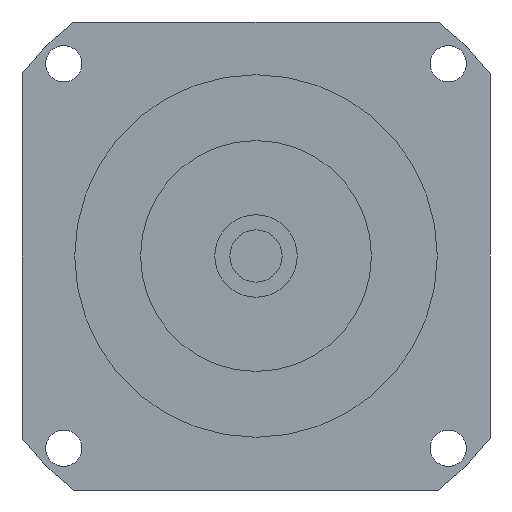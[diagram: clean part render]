
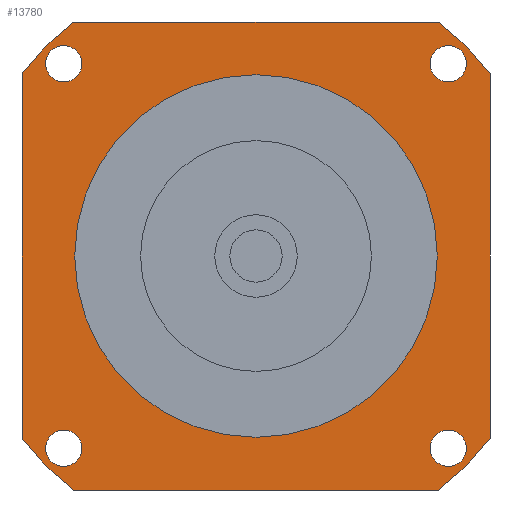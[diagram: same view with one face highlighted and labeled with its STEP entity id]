
A CAD part, left-side view. The second image highlights one B-rep face of the part: STEP entity #13780.
In plain terms, the highlighted planar face has unit normal (-1, 0, 0) as drawn and (0, 0, -1) by its records, which use the part's own axes.
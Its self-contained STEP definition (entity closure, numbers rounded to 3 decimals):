
#10130=CARTESIAN_POINT('',(71.,55.308,-59.7));
#10140=VERTEX_POINT('',#10130);
#10190=CARTESIAN_POINT('',(71.,71.,-59.7));
#10200=DIRECTION('',(0.,-1.,0.));
#10210=VECTOR('',#10200,1000.);
#10220=LINE('',#10190,#10210);
#10230=CARTESIAN_POINT('',(71.,-55.308,-59.7));
#10240=VERTEX_POINT('',#10230);
#10250=EDGE_CURVE('',#10140,#10240,#10220,.T.);
#10500=CARTESIAN_POINT('',(0.,0.,
-59.7));
#10510=DIRECTION('',(0.,0.,-1.));
#10520=DIRECTION('',(1.,0.,0.));
#10530=AXIS2_PLACEMENT_3D('',#10500,#10510,#10520);
#10540=CIRCLE('',#10530,90.);
#10550=CARTESIAN_POINT('',(55.308,-71.,-59.7));
#10560=VERTEX_POINT('',#10550);
#10570=EDGE_CURVE('',#10240,#10560,#10540,.T.);
#12280=CARTESIAN_POINT('',(52.836,-58.336,-59.7));
#12290=VERTEX_POINT('',#12280);
#12320=CARTESIAN_POINT('',(58.336,-58.336,-59.7));
#12330=DIRECTION('',(0.,0.,-1.));
#12340=DIRECTION('',(1.,0.,0.));
#12350=AXIS2_PLACEMENT_3D('',#12320,#12330,#12340);
#12360=CIRCLE('',#12350,5.5);
#12370=CARTESIAN_POINT('',(63.836,-58.336,-59.7));
#12380=VERTEX_POINT('',#12370);
#12390=EDGE_CURVE('',#12380,#12290,#12360,.T.);
#12510=CARTESIAN_POINT('',(71.,71.,-59.7));
#12520=DIRECTION('',(0.,0.,-1.));
#12530=DIRECTION('',(1.,0.,0.));
#12540=AXIS2_PLACEMENT_3D('',#12510,#12520,#12530);
#12550=PLANE('',#12540);
#12560=CARTESIAN_POINT('',(-58.336,-58.336,-59.7));
#12570=DIRECTION('',(0.,0.,-1.));
#12580=DIRECTION('',(0.,-1.,0.));
#12590=AXIS2_PLACEMENT_3D('',#12560,#12570,#12580);
#12600=CIRCLE('',#12590,5.5);
#12610=CARTESIAN_POINT('',(-58.336,-63.836,-59.7));
#12620=VERTEX_POINT('',#12610);
#12630=CARTESIAN_POINT('',(-58.336,-52.836,-59.7));
#12640=VERTEX_POINT('',#12630);
#12650=EDGE_CURVE('',#12620,#12640,#12600,.T.);
#12660=ORIENTED_EDGE('',*,*,#12650,.F.);
#12670=EDGE_CURVE('',#12640,#12620,#12600,.T.);
#12680=ORIENTED_EDGE('',*,*,#12670,.F.);
#12690=EDGE_LOOP('',(#12680,#12660));
#12700=FACE_BOUND('',#12690,.T.);
#12710=CARTESIAN_POINT('',(-58.336,58.336,-59.7));
#12720=DIRECTION('',(0.,0.,-1.));
#12730=DIRECTION('',(-1.,0.,0.));
#12740=AXIS2_PLACEMENT_3D('',#12710,#12720,#12730);
#12750=CIRCLE('',#12740,5.5);
#12760=CARTESIAN_POINT('',(-63.836,58.336,-59.7));
#12770=VERTEX_POINT('',#12760);
#12780=CARTESIAN_POINT('',(-52.836,58.336,-59.7));
#12790=VERTEX_POINT('',#12780);
#12800=EDGE_CURVE('',#12770,#12790,#12750,.T.);
#12810=ORIENTED_EDGE('',*,*,#12800,.F.);
#12820=EDGE_CURVE('',#12790,#12770,#12750,.T.);
#12830=ORIENTED_EDGE('',*,*,#12820,.F.);
#12840=EDGE_LOOP('',(#12830,#12810));
#12850=FACE_BOUND('',#12840,.T.);
#12860=CARTESIAN_POINT('',(58.336,58.336,-59.7));
#12870=DIRECTION('',(0.,0.,-1.));
#12880=DIRECTION('',(0.,1.,0.));
#12890=AXIS2_PLACEMENT_3D('',#12860,#12870,#12880);
#12900=CIRCLE('',#12890,5.5);
#12910=CARTESIAN_POINT('',(58.336,63.836,-59.7));
#12920=VERTEX_POINT('',#12910);
#12930=CARTESIAN_POINT('',(58.336,52.836,-59.7));
#12940=VERTEX_POINT('',#12930);
#12950=EDGE_CURVE('',#12920,#12940,#12900,.T.);
#12960=ORIENTED_EDGE('',*,*,#12950,.F.);
#12970=EDGE_CURVE('',#12940,#12920,#12900,.T.);
#12980=ORIENTED_EDGE('',*,*,#12970,.F.);
#12990=EDGE_LOOP('',(#12980,#12960));
#13000=FACE_BOUND('',#12990,.T.);
#13010=CARTESIAN_POINT('',(0.,0.,
-59.7));
#13020=DIRECTION('',(0.,0.,1.));
#13030=DIRECTION('',(0.,1.,0.));
#13040=AXIS2_PLACEMENT_3D('',#13010,#13020,#13030);
#13050=CIRCLE('',#13040,55.);
#13060=CARTESIAN_POINT('',(-55.,0.,-59.7));
#13070=VERTEX_POINT('',#13060);
#13080=CARTESIAN_POINT('',(55.,0.,-59.7));
#13090=VERTEX_POINT('',#13080);
#13100=EDGE_CURVE('',#13070,#13090,#13050,.T.);
#13110=ORIENTED_EDGE('',*,*,#13100,.T.);
#13120=CARTESIAN_POINT('',(0.,55.,-59.7));
#13130=VERTEX_POINT('',#13120);
#13140=EDGE_CURVE('',#13130,#13070,#13050,.T.);
#13150=ORIENTED_EDGE('',*,*,#13140,.T.);
#13160=EDGE_CURVE('',#13090,#13130,#13050,.T.);
#13170=ORIENTED_EDGE('',*,*,#13160,.T.);
#13180=EDGE_LOOP('',(#13170,#13150,#13110));
#13190=FACE_BOUND('',#13180,.T.);
#13200=CARTESIAN_POINT('',(-71.,71.,-59.7));
#13210=DIRECTION('',(1.,0.,0.));
#13220=VECTOR('',#13210,1000.);
#13230=LINE('',#13200,#13220);
#13240=CARTESIAN_POINT('',(-55.308,71.,-59.7));
#13250=VERTEX_POINT('',#13240);
#13260=CARTESIAN_POINT('',(55.308,71.,-59.7));
#13270=VERTEX_POINT('',#13260);
#13280=EDGE_CURVE('',#13250,#13270,#13230,.T.);
#13290=ORIENTED_EDGE('',*,*,#13280,.T.);
#13300=CARTESIAN_POINT('',(0.,0.,
-59.7));
#13310=DIRECTION('',(0.,0.,-1.));
#13320=DIRECTION('',(1.,0.,0.));
#13330=AXIS2_PLACEMENT_3D('',#13300,#13310,#13320);
#13340=CIRCLE('',#13330,90.);
#13350=CARTESIAN_POINT('',(-71.,55.308,-59.7));
#13360=VERTEX_POINT('',#13350);
#13370=EDGE_CURVE('',#13360,#13250,#13340,.T.);
#13380=ORIENTED_EDGE('',*,*,#13370,.T.);
#13390=CARTESIAN_POINT('',(-71.,-71.,-59.7));
#13400=DIRECTION('',(0.,1.,0.));
#13410=VECTOR('',#13400,1000.);
#13420=LINE('',#13390,#13410);
#13430=CARTESIAN_POINT('',(-71.,-55.308,-59.7));
#13440=VERTEX_POINT('',#13430);
#13450=EDGE_CURVE('',#13440,#13360,#13420,.T.);
#13460=ORIENTED_EDGE('',*,*,#13450,.T.);
#13470=CARTESIAN_POINT('',(0.,0.,
-59.7));
#13480=DIRECTION('',(0.,0.,-1.));
#13490=DIRECTION('',(1.,0.,0.));
#13500=AXIS2_PLACEMENT_3D('',#13470,#13480,#13490);
#13510=CIRCLE('',#13500,90.);
#13520=CARTESIAN_POINT('',(-55.308,-71.,-59.7));
#13530=VERTEX_POINT('',#13520);
#13540=EDGE_CURVE('',#13530,#13440,#13510,.T.);
#13550=ORIENTED_EDGE('',*,*,#13540,.T.);
#13560=CARTESIAN_POINT('',(71.,-71.,-59.7));
#13570=DIRECTION('',(-1.,0.,0.));
#13580=VECTOR('',#13570,1000.);
#13590=LINE('',#13560,#13580);
#13600=EDGE_CURVE('',#10560,#13530,#13590,.T.);
#13610=ORIENTED_EDGE('',*,*,#13600,.T.);
#13620=ORIENTED_EDGE('',*,*,#10570,.T.);
#13630=ORIENTED_EDGE('',*,*,#10250,.T.);
#13640=CARTESIAN_POINT('',(0.,0.,
-59.7));
#13650=DIRECTION('',(0.,0.,-1.));
#13660=DIRECTION('',(1.,0.,0.));
#13670=AXIS2_PLACEMENT_3D('',#13640,#13650,#13660);
#13680=CIRCLE('',#13670,90.);
#13690=EDGE_CURVE('',#13270,#10140,#13680,.T.);
#13700=ORIENTED_EDGE('',*,*,#13690,.T.);
#13710=EDGE_LOOP('',(#13700,#13630,#13620,#13610,#13550,#13460,#13380,
#13290));
#13720=FACE_OUTER_BOUND('',#13710,.T.);
#13730=ORIENTED_EDGE('',*,*,#12390,.F.);
#13740=EDGE_CURVE('',#12290,#12380,#12360,.T.);
#13750=ORIENTED_EDGE('',*,*,#13740,.F.);
#13760=EDGE_LOOP('',(#13750,#13730));
#13770=FACE_BOUND('',#13760,.T.);
#13780=ADVANCED_FACE('',(#12700,#12850,#13000,#13190,#13720,#13770),
#12550,.T.);
